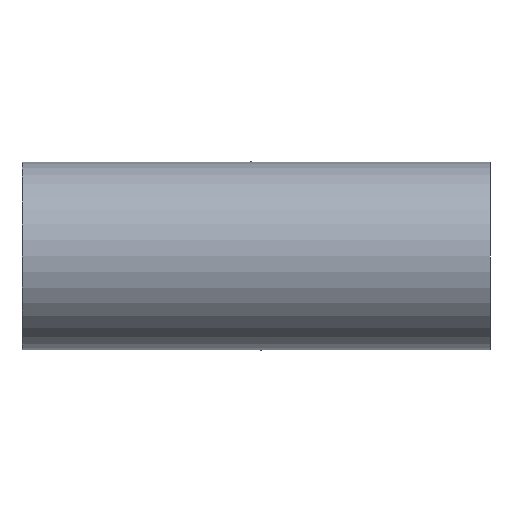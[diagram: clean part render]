
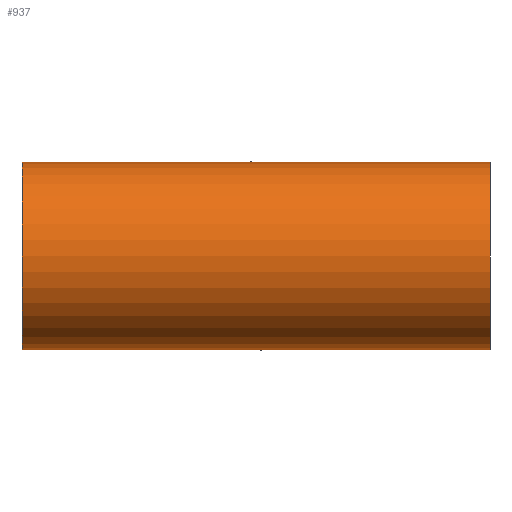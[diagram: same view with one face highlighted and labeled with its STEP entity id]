
A CAD part, front view. The second image highlights one B-rep face of the part: STEP entity #937.
In plain terms, the highlighted cylindrical face has radius 31.75 mm (diameter 63.5 mm), a partial arc.
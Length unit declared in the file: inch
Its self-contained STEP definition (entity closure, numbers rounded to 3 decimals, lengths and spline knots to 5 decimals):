
#1 = VERTEX_POINT ( 'NONE', #311 ) ;
#8 = DIRECTION ( 'NONE',  ( -1., 0., 0. ) ) ;
#39 = AXIS2_PLACEMENT_3D ( 'NONE', #112, #800, #211 ) ;
#44 = AXIS2_PLACEMENT_3D ( 'NONE', #509, #1147, #616 ) ;
#75 = CARTESIAN_POINT ( 'NONE',  ( 5.32724, 3.18956, 3.66533 ) ) ;
#94 = LINE ( 'NONE', #75, #1076 ) ;
#107 = ORIENTED_EDGE ( 'NONE', *, *, #293, .T. ) ;
#112 = CARTESIAN_POINT ( 'NONE',  ( -0.92276, 3.18956, 4.91533 ) ) ;
#120 = EDGE_CURVE ( 'NONE', #300, #668, #94, .T. ) ;
#188 = EDGE_CURVE ( 'NONE', #492, #1, #323, .T. ) ;
#211 = DIRECTION ( 'NONE',  ( 0., 0., -1. ) ) ;
#283 = EDGE_CURVE ( 'NONE', #492, #300, #862, .T. ) ;
#293 = EDGE_CURVE ( 'NONE', #1, #668, #644, .T. ) ;
#300 = VERTEX_POINT ( 'NONE', #1064 ) ;
#305 = EDGE_LOOP ( 'NONE', ( #427, #1052, #524, #107 ) ) ;
#311 = CARTESIAN_POINT ( 'NONE',  ( -0.92276, 3.18956, 6.16533 ) ) ;
#316 = CARTESIAN_POINT ( 'NONE',  ( 5.32724, 3.18956, 4.91533 ) ) ;
#323 = LINE ( 'NONE', #693, #836 ) ;
#372 = AXIS2_PLACEMENT_3D ( 'NONE', #316, #713, #802 ) ;
#427 = ORIENTED_EDGE ( 'NONE', *, *, #120, .F. ) ;
#492 = VERTEX_POINT ( 'NONE', #541 ) ;
#509 = CARTESIAN_POINT ( 'NONE',  ( 5.32724, 3.18956, 4.91533 ) ) ;
#524 = ORIENTED_EDGE ( 'NONE', *, *, #188, .T. ) ;
#541 = CARTESIAN_POINT ( 'NONE',  ( 5.32724, 3.18956, 6.16533 ) ) ;
#584 = CYLINDRICAL_SURFACE ( 'NONE', #372, 1.25 ) ;
#616 = DIRECTION ( 'NONE',  ( 0., 0., -1. ) ) ;
#644 = CIRCLE ( 'NONE', #39, 1.25 ) ;
#668 = VERTEX_POINT ( 'NONE', #1029 ) ;
#693 = CARTESIAN_POINT ( 'NONE',  ( 5.32724, 3.18956, 6.16533 ) ) ;
#713 = DIRECTION ( 'NONE',  ( -1., 0., 0. ) ) ;
#764 = DIRECTION ( 'NONE',  ( -1., 0., 0. ) ) ;
#800 = DIRECTION ( 'NONE',  ( 1., 0., 0. ) ) ;
#802 = DIRECTION ( 'NONE',  ( 0., 0., 1. ) ) ;
#836 = VECTOR ( 'NONE', #8, 39.37008 ) ;
#862 = CIRCLE ( 'NONE', #44, 1.25 ) ;
#937 = ADVANCED_FACE ( 'NONE', ( #1089 ), #584, .T. ) ;
#1029 = CARTESIAN_POINT ( 'NONE',  ( -0.92276, 3.18956, 3.66533 ) ) ;
#1052 = ORIENTED_EDGE ( 'NONE', *, *, #283, .F. ) ;
#1064 = CARTESIAN_POINT ( 'NONE',  ( 5.32724, 3.18956, 3.66533 ) ) ;
#1076 = VECTOR ( 'NONE', #764, 39.37008 ) ;
#1089 = FACE_OUTER_BOUND ( 'NONE', #305, .T. ) ;
#1147 = DIRECTION ( 'NONE',  ( 1., 0., 0. ) ) ;
